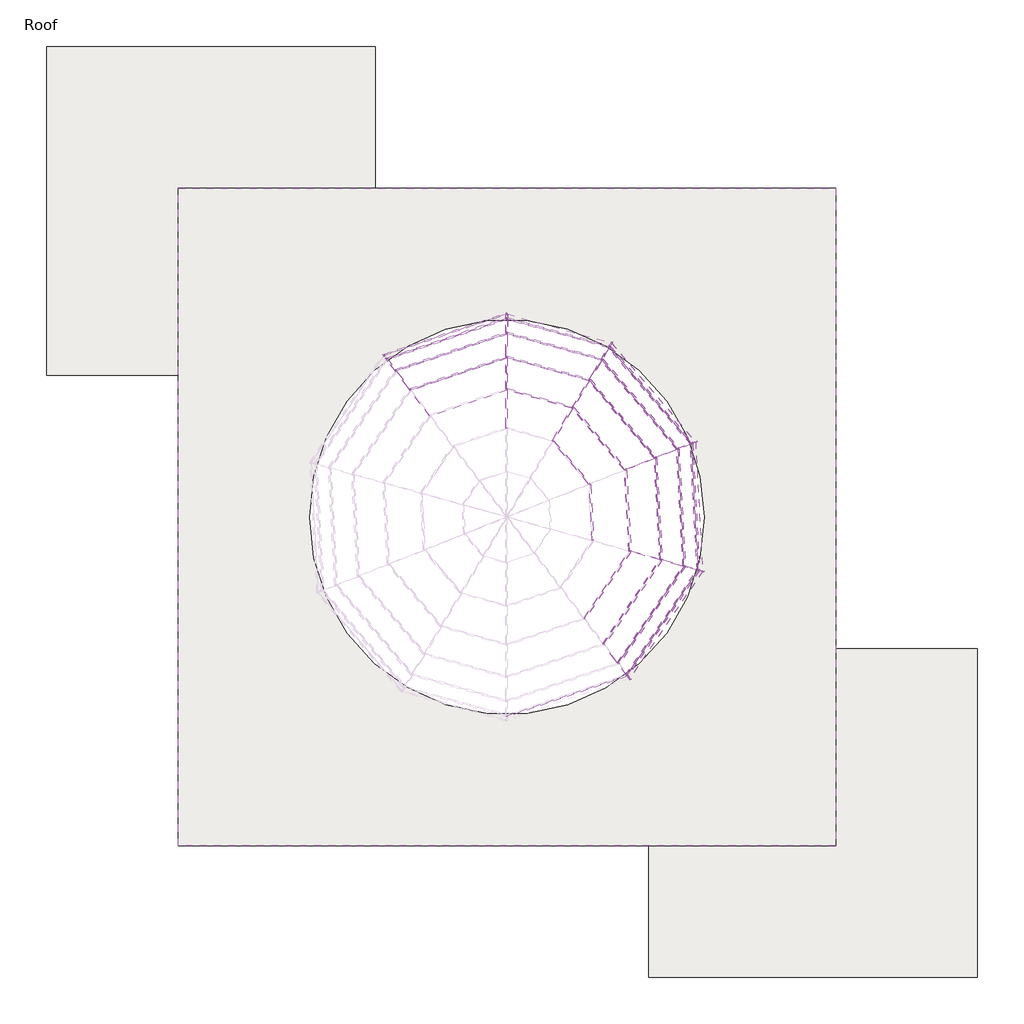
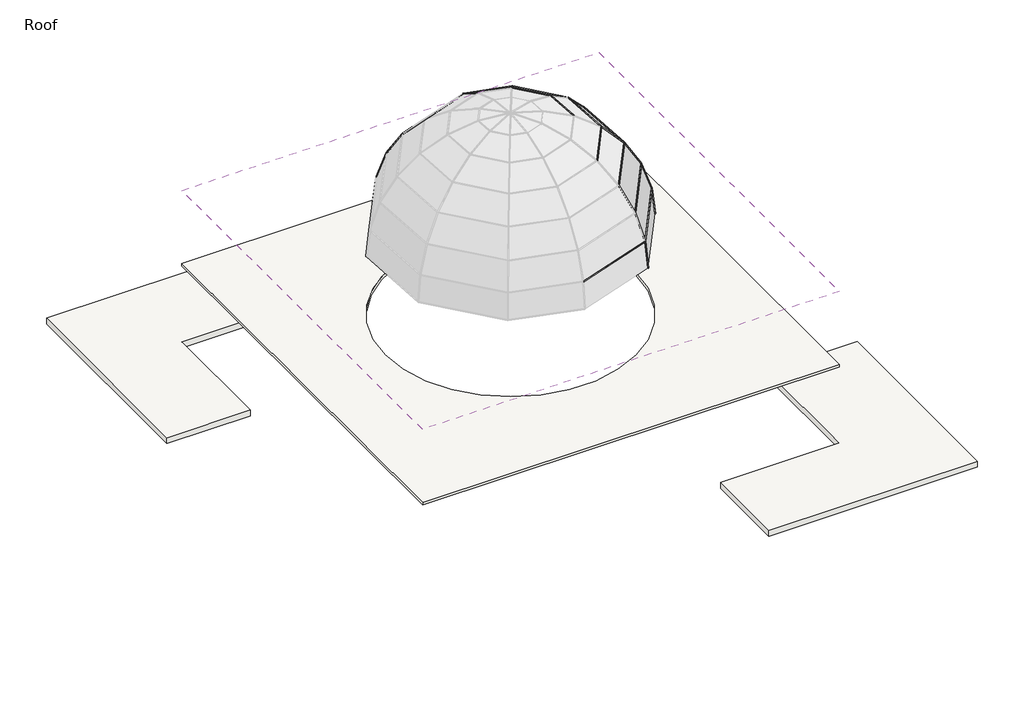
# One storey, part 3 of 3: 45 members, 19 plates, 2 roofs, 1 slab.
"""IFC4 building model written with IfcOpenShell, lengths in millimetres."""

from ifc_helpers import new_model, si_unit, point, frame, frame_2d, origin, place, context, project, spatial, polyline, circle_curve, trimmed, segment, composite_curve, outline, extrude, transform, mapped, element, save
from components import member_3f701010, member_f9a14158, member_89652987, member_f7a51896, member_e8657a5b, member_6c74bff8, member_1e27593e, member_b4df3876, member_8766197f, member_36e36e3b, member_733b6783, member_7154ae9a, member_26d44a89, member_f4d1524e, member_0322ee24, member_f8dfbb61, member_2d455e9d, member_0d674358, member_82e3ca89, member_0ef3871b, member_af50478e, member_83124ab3, system_panel_glazed_0031539c, system_panel_glazed_f3dd288a, system_panel_glazed_23af2605, system_panel_glazed_f170e29b, system_panel_glazed_4e7d729c, system_panel_glazed_2310db81, system_panel_glazed_ed1eaaca, system_panel_glazed_395523a0

model = new_model("IFC4")

# Units and contexts
model_context = context("Model", 3, world=origin())
ifc_project = project(units=[si_unit("LENGTHUNIT", "METRE", prefix="MILLI")], contexts=[model_context])

# Site, building, storey
site = spatial("IfcSite", under=ifc_project)
building = spatial("IfcBuilding", under=site)
storey = spatial("IfcBuildingStorey", under=building, Name="Roof", Elevation=15240.0)

# Members
placement = place(None, origin())
member_shape = member_3f701010(model_context)
element("IfcMember", 1, ObjectType="Rectangular Mullion : 1\" Square", at=placement, inside=storey, context=model_context, shape_type="MappedRepresentation", body=[
    mapped(member_shape, transform((-5287.0310513, 794.00966, 20297.5362419), x_axis=(-0.7960457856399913, -0.6052364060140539, 0.0), y_axis=(0.5733190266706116, -0.7540659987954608, -0.3204524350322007), z_axis=(0.1939494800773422, -0.25509481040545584, 0.9472646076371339))),
])
element("IfcMember", 2, ObjectType="Rectangular Mullion : 1\" Square", at=placement, inside=storey, context=model_context, shape_type="MappedRepresentation", body=[
    mapped(member_shape, transform((1420.8276165, -3752.8840541, 20297.5362419), x_axis=(0.26737778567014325, 0.9635917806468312, 0.0), y_axis=(-0.9127763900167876, 0.25327751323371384, -0.32045243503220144), z_axis=(-0.30878533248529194, 0.08568186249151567, 0.9472646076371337))),
])
element("IfcMember", 3, ObjectType="Rectangular Mullion : 1\" Square", at=placement, inside=storey, context=model_context, shape_type="MappedRepresentation", body=[
    mapped(member_shape, transform((1272.4525404, -1026.1181505, 20297.5362419), x_axis=(-0.3703558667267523, 0.9288899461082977, 0.0), y_axis=(-0.879904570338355, -0.3508250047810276, -0.320452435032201), z_axis=(-0.2976650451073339, -0.11868143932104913, 0.9472646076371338))),
])
element("IfcMember", 4, ObjectType="Rectangular Mullion : 1\" Square", at=placement, inside=storey, context=model_context, shape_type="MappedRepresentation", body=[
    mapped(member_shape, transform((-495.9988091, 1054.7103577, 20297.5362419), x_axis=(-0.8570182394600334, 0.5152860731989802, 0.0), y_axis=(-0.48811225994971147, -0.8118230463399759, -0.32045243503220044), z_axis=(-0.165124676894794, -0.27463358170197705, 0.9472646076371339))),
])
member_2_shape = member_f9a14158(model_context)
element("IfcMember", 5, ObjectType="Rectangular Mullion : 1\" Square", at=placement, inside=storey, context=model_context, shape_type="MappedRepresentation", body=[
    mapped(member_2_shape, transform((-4948.1766995, 348.3266574, 21205.6147789), x_axis=(-0.7960457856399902, -0.6052364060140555, 0.0), y_axis=(0.5151876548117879, -0.6776078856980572, -0.5248135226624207), z_axis=(0.31763625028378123, -0.4177755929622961, 0.8512172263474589))),
])
element("IfcMember", 6, ObjectType="Rectangular Mullion : 1\" Square", at=placement, inside=storey, context=model_context, shape_type="MappedRepresentation", body=[
    mapped(member_2_shape, transform((159.2860069, -3402.8310452, 21964.9283585), x_axis=(0.26737778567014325, 0.9635917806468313, 0.0), y_axis=(-0.6858533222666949, 0.19031082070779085, -0.7024151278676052), z_axis=(-0.6768414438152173, 0.18781020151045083, 0.7117675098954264))),
])
element("IfcMember", 7, ObjectType="Rectangular Mullion : 1\" Square", at=placement, inside=storey, context=model_context, shape_type="MappedRepresentation", body=[
    mapped(member_2_shape, transform((881.3404592, -3603.1869682, 21205.6147789), x_axis=(0.2673777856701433, 0.9635917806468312, 0.0), y_axis=(-0.8202259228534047, 0.22759657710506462, -0.5248135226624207), z_axis=(-0.505705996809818, 0.14032347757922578, 0.8512172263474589))),
])
element("IfcMember", 8, ObjectType="Rectangular Mullion : 1\" Square", at=placement, inside=storey, context=model_context, shape_type="MappedRepresentation", body=[
    mapped(member_2_shape, transform((56.3428337, -1510.9908379, 21964.9283585), x_axis=(-0.3703558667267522, 0.9288899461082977, 0.0), y_axis=(-0.6611536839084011, -0.26360727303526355, -0.7024151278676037), z_axis=(-0.6524663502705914, -0.2601435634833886, 0.7117675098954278))),
])
element("IfcMember", 9, ObjectType="Rectangular Mullion : 1\" Square", at=placement, inside=storey, context=model_context, shape_type="MappedRepresentation", body=[
    mapped(member_2_shape, transform((752.3939361, -1233.4696844, 21205.6147789), x_axis=(-0.37035586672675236, 0.9288899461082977, 0.0), y_axis=(-0.7906871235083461, -0.31525329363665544, -0.52481352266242), z_axis=(-0.4874940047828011, -0.1943677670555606, 0.8512172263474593))),
])
element("IfcMember", 10, ObjectType="Rectangular Mullion : 1\" Square", at=placement, inside=storey, context=model_context, shape_type="MappedRepresentation", body=[
    mapped(member_2_shape, transform((-1170.6152134, -67.3043699, 21964.9283585), x_axis=(-0.8570182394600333, 0.5152860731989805, 0.0), y_axis=(-0.36676388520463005, -0.6099977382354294, -0.7024151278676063), z_axis=(-0.36194473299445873, -0.60198257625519, 0.7117675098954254))),
])
element("IfcMember", 11, ObjectType="Rectangular Mullion : 1\" Square", at=placement, inside=storey, context=model_context, shape_type="MappedRepresentation", body=[
    mapped(member_2_shape, transform((-784.4925722, 574.8906424, 21205.6147789), x_axis=(-0.8570182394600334, 0.5152860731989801, 0.0), y_axis=(-0.43862038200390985, -0.7295086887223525, -0.5248135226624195), z_axis=(-0.2704290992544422, -0.4497747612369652, 0.8512172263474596))),
])
element("IfcMember", 12, ObjectType="Rectangular Mullion : 1\" Square", at=placement, inside=storey, context=model_context, shape_type="MappedRepresentation", body=[
    mapped(member_2_shape, transform((-1634.6788976, -839.1300846, 22536.7606794), x_axis=(-0.8570182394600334, 0.5152860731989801, 0.0), y_axis=(-0.2762066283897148, -0.45938388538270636, -0.8442016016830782), z_axis=(-0.4350053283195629, -0.723496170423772, 0.5360257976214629))),
])
member_3_shape = member_89652987(model_context)
element("IfcMember", 13, ObjectType="Rectangular Mullion : 1\" Square", at=placement, inside=storey, context=model_context, shape_type="MappedRepresentation", body=[
    mapped(member_3_shape, transform((-2699.2140381, 2007.9179508, 19286.9943584), x_axis=(0.9526418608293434, 0.28805798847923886, 0.09744783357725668), y_axis=(0.30409453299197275, -0.902403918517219, -0.30527640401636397), z_axis=(0.0, 0.3204524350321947, -0.9472646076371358))),
])
member_4_shape = member_f7a51896(model_context)
element("IfcMember", 14, ObjectType="Rectangular Mullion : 1\" Square", at=placement, inside=storey, context=model_context, shape_type="MappedRepresentation", body=[
    mapped(member_4_shape, transform((-2699.2140381, 1666.0592931, 20297.5362419), x_axis=(0.9612361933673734, 0.2347029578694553, 0.1447048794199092), y_axis=(0.2757262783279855, -0.8182208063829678, -0.5044697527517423), z_axis=(0.0, 0.5248135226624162, -0.8512172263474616))),
])
member_5_shape = member_e8657a5b(model_context)
element("IfcMember", 15, ObjectType="Rectangular Mullion : 1\" Square", at=placement, inside=storey, context=model_context, shape_type="MappedRepresentation", body=[
    mapped(member_5_shape, transform((-2699.2140381, 1106.1882271, 21205.6147789), x_axis=(0.9724196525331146, 0.1660113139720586, 0.16382998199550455), y_axis=(0.23323811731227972, -0.6921367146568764, -0.683042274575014), z_axis=(0.0, 0.7024151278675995, -0.7117675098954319))),
])
member_6_shape = member_6c74bff8(model_context)
element("IfcMember", 16, ObjectType="Rectangular Mullion : 1\" Square", at=placement, inside=storey, context=model_context, shape_type="MappedRepresentation", body=[
    mapped(member_6_shape, transform((-2699.2140381, 356.8517687, 21964.9283585), x_axis=(0.9840748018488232, 0.0952811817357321, 0.15006092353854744), y_axis=(0.17775484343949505, -0.5274894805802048, -0.8307575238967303), z_axis=(0.0, 0.8442016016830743, -0.5360257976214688))),
])
member_7_shape = member_1e27593e(model_context)
element("IfcMember", 17, ObjectType="Rectangular Mullion : 1\" Square", at=placement, inside=storey, context=model_context, shape_type="MappedRepresentation", body=[
    mapped(member_7_shape, transform((-5546.5578778, 1155.2408603, 18288.0), x_axis=(-0.032195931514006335, 0.09554178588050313, -0.9949046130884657), y_axis=(0.317711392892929, -0.9428121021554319, -0.1008206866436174), z_axis=(-0.9476406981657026, -0.31933854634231, 0.0))),
])
member_8_shape = member_b4df3876(model_context)
element("IfcMember", 18, ObjectType="Rectangular Mullion : 1\" Square", at=placement, inside=storey, context=model_context, shape_type="MappedRepresentation", body=[
    mapped(member_8_shape, transform((1743.1139654, -3854.8019504, 19286.9943584), x_axis=(0.1842360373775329, -0.12488362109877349, -0.9749159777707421), y_axis=(-0.8069913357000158, 0.5470156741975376, -0.22257321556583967), z_axis=(0.5610900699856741, 0.8277547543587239, 0.0))),
])
element("IfcMember", 19, ObjectType="Rectangular Mullion : 1\" Square", at=placement, inside=storey, context=model_context, shape_type="MappedRepresentation", body=[
    mapped(member_8_shape, transform((1590.6916514, -912.1900308, 19286.9943584), x_axis=(0.2222444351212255, 0.012093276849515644, -0.9749159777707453), y_axis=(-0.9734758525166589, -0.05297101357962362, -0.222573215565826), z_axis=(-0.05433392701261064, 0.99852282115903, 0.0))),
])
element("IfcMember", 20, ObjectType="Rectangular Mullion : 1\" Square", at=placement, inside=storey, context=model_context, shape_type="MappedRepresentation", body=[
    mapped(member_8_shape, transform((-311.6193517, 1338.012253, 19286.9943584), x_axis=(0.16959745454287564, 0.14413722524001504, -0.9749159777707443), y_axis=(-0.742871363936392, -0.631350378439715, -0.2225732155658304), z_axis=(-0.6475946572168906, 0.7619850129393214, 0.0))),
])
member_9_shape = member_8766197f(model_context)
element("IfcMember", 21, ObjectType="Rectangular Mullion : 1\" Square", at=placement, inside=storey, context=model_context, shape_type="MappedRepresentation", body=[
    mapped(member_9_shape, transform((-5274.9960144, 798.0652595, 20297.5362419), x_axis=(-0.14188636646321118, 0.42104937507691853, -0.8958714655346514), y_axis=(0.28608629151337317, -0.8489642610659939, -0.44431330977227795), z_axis=(-0.947640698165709, -0.31933854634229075, 0.0))),
])
member_10_shape = member_36e36e3b(model_context)
element("IfcMember", 22, ObjectType="Rectangular Mullion : 1\" Square", at=placement, inside=storey, context=model_context, shape_type="MappedRepresentation", body=[
    mapped(member_10_shape, transform((-776.2681201, 565.2134327, 21205.6147789), x_axis=(0.4861581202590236, 0.4131753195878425, -0.7700236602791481), y_axis=(-0.5867464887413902, -0.49866320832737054, -0.6380153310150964), z_axis=(-0.6475946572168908, 0.7619850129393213, 0.0))),
])
element("IfcMember", 23, ObjectType="Rectangular Mullion : 1\" Square", at=placement, inside=storey, context=model_context, shape_type="MappedRepresentation", body=[
    mapped(member_10_shape, transform((753.083977, -1246.1509242, 21205.6147789), x_axis=(0.6370728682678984, 0.03466587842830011, -0.7700236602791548), y_axis=(-0.7688861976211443, -0.04183840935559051, -0.6380153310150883), z_axis=(-0.05433392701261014, 0.99852282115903, 0.0))),
])
element("IfcMember", 24, ObjectType="Rectangular Mullion : 1\" Square", at=placement, inside=storey, context=model_context, shape_type="MappedRepresentation", body=[
    mapped(member_10_shape, transform((874.2146153, -3613.6994536, 21205.6147789), x_axis=(0.5281202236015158, -0.35798406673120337, -0.7700236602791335), y_axis=(-0.6373907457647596, 0.43205262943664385, -0.6380153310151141), z_axis=(0.561090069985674, 0.8277547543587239, 0.0))),
])
member_11_shape = member_733b6783(model_context)
element("IfcMember", 25, ObjectType="Rectangular Mullion : 1\" Square", at=placement, inside=storey, context=model_context, shape_type="MappedRepresentation", body=[
    mapped(member_11_shape, transform((-487.774357, 1045.033148, 20297.5362419), x_axis=(0.33856008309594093, 0.2877349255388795, -0.8958714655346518), y_axis=(-0.6826406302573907, -0.5801615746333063, -0.4443133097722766), z_axis=(-0.6475946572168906, 0.7619850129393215, 0.0))),
])
element("IfcMember", 26, ObjectType="Rectangular Mullion : 1\" Square", at=placement, inside=storey, context=model_context, shape_type="MappedRepresentation", body=[
    mapped(member_11_shape, transform((1413.7017727, -3763.3965395, 20297.5362419), x_axis=(0.3677824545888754, -0.24929978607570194, -0.895871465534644), y_axis=(-0.7415618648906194, 0.502664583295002, -0.4443133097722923), z_axis=(0.5610900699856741, 0.8277547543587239, 0.0))),
])
element("IfcMember", 27, ObjectType="Rectangular Mullion : 1\" Square", at=placement, inside=storey, context=model_context, shape_type="MappedRepresentation", body=[
    mapped(member_11_shape, transform((1273.1425813, -1038.7993903, 20297.5362419), x_axis=(0.4436569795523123, 0.02414128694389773, -0.8958714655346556), y_axis=(-0.8945481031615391, -0.048676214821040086, -0.44431330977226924), z_axis=(-0.05433392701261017, 0.99852282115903, 0.0))),
])
member_12_shape = member_7154ae9a(model_context)
element("IfcMember", 28, ObjectType="Rectangular Mullion : 1\" Square", at=placement, inside=storey, context=model_context, shape_type="MappedRepresentation", body=[
    mapped(member_12_shape, transform((-5481.9013197, 1070.2004033, 19286.9943584), x_axis=(-0.07107620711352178, 0.21091943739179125, -0.974915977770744), y_axis=(0.311328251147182, -0.923870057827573, -0.2225732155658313), z_axis=(-0.9476406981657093, -0.31933854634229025, 0.0))),
])
member_13_shape = member_26d44a89(model_context)
element("IfcMember", 29, ObjectType="Rectangular Mullion : 1\" Square", at=placement, inside=storey, context=model_context, shape_type="MappedRepresentation", body=[
    mapped(member_13_shape, transform((57.0328745, -1523.6720777, 21964.9283585), x_axis=(0.7932455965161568, 0.04316390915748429, -0.6073699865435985), y_axis=(-0.6064727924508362, -0.033000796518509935, -0.7944190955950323), z_axis=(-0.05433392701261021, 0.99852282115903, 0.0))),
])
element("IfcMember", 30, ObjectType="Rectangular Mullion : 1\" Square", at=placement, inside=storey, context=model_context, shape_type="MappedRepresentation", body=[
    mapped(member_13_shape, transform((152.160163, -3413.3435306, 21964.9283585), x_axis=(0.6575841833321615, -0.4457406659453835, -0.6073699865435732), y_axis=(-0.5027533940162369, 0.3407892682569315, -0.7944190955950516), z_axis=(0.5610900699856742, 0.8277547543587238, 0.0))),
])
element("IfcMember", 31, ObjectType="Rectangular Mullion : 1\" Square", at=placement, inside=storey, context=model_context, shape_type="MappedRepresentation", body=[
    mapped(member_13_shape, transform((-1162.3907612, -76.9815796, 21964.9283585), x_axis=(0.6053354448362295, 0.5144615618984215, -0.6073699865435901), y_axis=(-0.46280682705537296, -0.39332955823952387, -0.7944190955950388), z_axis=(-0.6475946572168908, 0.7619850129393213, 0.0))),
])
member_14_shape = member_f4d1524e(model_context)
element("IfcMember", 32, ObjectType="Rectangular Mullion : 1\" Square", at=placement, inside=storey, context=model_context, shape_type="MappedRepresentation", body=[
    mapped(member_14_shape, transform((-4936.1416626, 352.3822569, 21205.6147789), x_axis=(-0.20374288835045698, 0.6046092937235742, -0.7700236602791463), y_axis=(0.24589823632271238, -0.7297057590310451, -0.6380153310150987), z_axis=(-0.9476406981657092, -0.3193385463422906, 0.0))),
])
member_15_shape = member_0322ee24(model_context)
element("IfcMember", 33, ObjectType="Rectangular Mullion : 1\" Square", at=placement, inside=storey, context=model_context, shape_type="MappedRepresentation", body=[
    mapped(member_15_shape, transform((-5493.9363566, 1066.1448037, 19286.9943584), x_axis=(-0.7960457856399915, -0.6052364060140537, 0.0), y_axis=(0.6018052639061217, -0.7915329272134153, -0.1063299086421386), z_axis=(0.0643547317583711, -0.08464347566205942, 0.9943309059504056))),
])
member_16_shape = member_f8dfbb61(model_context)
element("IfcMember", 34, ObjectType="Rectangular Mullion : 1\" Square", at=placement, inside=storey, context=model_context, shape_type="MappedRepresentation", body=[
    mapped(member_16_shape, transform((-779.5200872, -1857.2124487, 22536.7606794), x_axis=(0.906879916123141, 0.04934724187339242, -0.4184897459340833), y_axis=(-0.4178715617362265, -0.022738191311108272, -0.9082215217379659), z_axis=(-0.05433392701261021, 0.99852282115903, 0.0))),
])
element("IfcMember", 35, ObjectType="Rectangular Mullion : 1\" Square", at=placement, inside=storey, context=model_context, shape_type="MappedRepresentation", body=[
    mapped(member_16_shape, transform((-1626.4544455, -848.8072942, 22536.7606794), x_axis=(0.6920511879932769, 0.5881594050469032, -0.41848974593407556), y_axis=(-0.3188829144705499, -0.2710117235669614, -0.9082215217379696), z_axis=(-0.6475946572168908, 0.7619850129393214, 0.0))),
])
member_17_shape = member_2d455e9d(model_context)
element("IfcMember", 36, ObjectType="Rectangular Mullion : 1\" Square", at=placement, inside=storey, context=model_context, shape_type="MappedRepresentation", body=[
    mapped(member_17_shape, transform((-2699.2140381, 2114.7465511, 18288.0), x_axis=(0.9481874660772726, 0.3159102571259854, 0.03378222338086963), y_axis=(0.31771139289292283, -0.9428121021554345, -0.10082068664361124), z_axis=(0.0, 0.1063299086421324, -0.9943309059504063))),
])
member_18_shape = member_0d674358(model_context)
element("IfcMember", 37, ObjectType="Rectangular Mullion : 1\" Square", at=placement, inside=storey, context=model_context, shape_type="MappedRepresentation", body=[
    mapped(member_18_shape, transform((-2699.2140381, 356.8517687, 21964.9283585), x_axis=(0.21109233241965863, 0.7607469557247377, -0.613762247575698), y_axis=(-0.1641063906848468, -0.5914162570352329, -0.7894909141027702), z_axis=(-0.9635917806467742, 0.2673777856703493, 0.0))),
])
member_19_shape = member_82e3ca89(model_context)
element("IfcMember", 38, ObjectType="Rectangular Mullion : 1\" Square", at=placement, inside=storey, context=model_context, shape_type="MappedRepresentation", body=[
    mapped(member_19_shape, transform((-2699.2140381, 1106.1882271, 21205.6147789), x_axis=(0.16889969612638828, 0.6086906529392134, -0.775221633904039), y_axis=(-0.20727704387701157, -0.7469971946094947, -0.6316893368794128), z_axis=(-0.9635917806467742, 0.2673777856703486, 0.0))),
])
member_20_shape = member_0ef3871b(model_context)
element("IfcMember", 39, ObjectType="Rectangular Mullion : 1\" Square", at=placement, inside=storey, context=model_context, shape_type="MappedRepresentation", body=[
    mapped(member_20_shape, transform((-2699.2140381, 1666.0592931, 20297.5362419), x_axis=(0.11721342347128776, 0.422420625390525, -0.8987890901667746), y_axis=(-0.24031623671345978, -0.8660657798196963, -0.43838130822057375), z_axis=(-0.9635917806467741, 0.2673777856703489, 0.0))),
])
element("IfcMember", 40, ObjectType="Rectangular Mullion : 1\" Square", at=placement, inside=storey, context=model_context, shape_type="MappedRepresentation", body=[
    mapped(member_15_shape, transform((95.5082804, -6285.4517016, 19286.9943584), x_axis=(0.7960457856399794, 0.6052364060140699, 0.0), y_axis=(-0.6018052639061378, 0.7915329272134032, -0.10632990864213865), z_axis=(-0.06435473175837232, 0.08464347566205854, 0.9943309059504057))),
])
element("IfcMember", 41, ObjectType="Rectangular Mullion : 1\" Square", at=placement, inside=storey, context=model_context, shape_type="MappedRepresentation", body=[
    mapped(member_15_shape, transform((1750.2398092, -3844.289465, 19286.9943584), x_axis=(0.2673777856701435, 0.9635917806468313, 0.0), y_axis=(-0.9581290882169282, 0.26586199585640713, -0.10632990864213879), z_axis=(-0.10245862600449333, 0.02843025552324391, 0.9943309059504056))),
])
element("IfcMember", 42, ObjectType="Rectangular Mullion : 1\" Square", at=placement, inside=storey, context=model_context, shape_type="MappedRepresentation", body=[
    mapped(member_15_shape, transform((1590.0016106, -899.508791, 19286.9943584), x_axis=(-0.3703558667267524, 0.9288899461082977, 0.0), y_axis=(-0.923623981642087, -0.3682562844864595, -0.10632990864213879), z_axis=(-0.09876878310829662, -0.0393799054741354, 0.9943309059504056))),
])
element("IfcMember", 43, ObjectType="Rectangular Mullion : 1\" Square", at=placement, inside=storey, context=model_context, shape_type="MappedRepresentation", body=[
    mapped(member_15_shape, transform((-319.8438038, 1347.6894627, 19286.9943584), x_axis=(-0.8570182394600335, 0.51528607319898, 0.0), y_axis=(-0.5123648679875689, -0.8521597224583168, -0.10632990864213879), z_axis=(-0.05479032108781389, -0.09112667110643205, 0.9943309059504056))),
])
member_21_shape = member_af50478e(model_context)
element("IfcMember", 44, ObjectType="Rectangular Mullion : 1\" Square", at=placement, inside=storey, context=model_context, shape_type="MappedRepresentation", body=[
    mapped(member_21_shape, transform((83.4732435, -6289.5073011, 19286.9943584), x_axis=(0.07107620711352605, -0.21091943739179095, -0.9749159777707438), y_axis=(-0.31132825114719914, 0.923870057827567, -0.22257321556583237), z_axis=(0.9476406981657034, 0.31933854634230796, 0.0))),
])
member_22_shape = member_83124ab3(model_context)
element("IfcMember", 45, ObjectType="Rectangular Mullion : 1\" Square", at=placement, inside=storey, context=model_context, shape_type="MappedRepresentation", body=[
    mapped(member_22_shape, transform((-2699.2140381, 2007.9179508, 19286.9943584), x_axis=(0.058573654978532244, 0.21109118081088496, -0.9757098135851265), y_axis=(-0.26088312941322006, -0.9401859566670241, -0.21906702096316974), z_axis=(-0.963591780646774, 0.26737778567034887, 0.0))),
])

# Plates
system_panel_glazed_shape = system_panel_glazed_0031539c(model_context)
element("IfcPlate", 46, ObjectType="System Panel : Glazed", at=placement, inside=storey, context=model_context, shape_type="MappedRepresentation", body=[
    mapped(system_panel_glazed_shape, transform((107.8144203, -2456.9109416, 21964.9283585), x_axis=(-0.054333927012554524, 0.9985228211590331, 0.0), y_axis=(0.7292999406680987, 0.03968435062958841, 0.683042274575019), z_axis=(0.6820332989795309, 0.03711236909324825, -0.730378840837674))),
])
element("IfcPlate", 47, ObjectType="System Panel : Glazed", at=placement, inside=storey, context=model_context, shape_type="MappedRepresentation", body=[
    mapped(system_panel_glazed_shape, transform((-557.1361899, -789.1476039, 21964.9283585), x_axis=(-0.6475946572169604, 0.7619850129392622, 0.0), y_axis=(0.5565377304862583, 0.4729894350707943, 0.6830422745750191), z_axis=(0.520467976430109, 0.4423345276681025, -0.7303788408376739))),
])
element("IfcPlate", 48, ObjectType="System Panel : Glazed", at=placement, inside=storey, context=model_context, shape_type="MappedRepresentation", body=[
    mapped(system_panel_glazed_shape, transform((-3596.9325163, 54.3361482, 21964.9283585), x_axis=(-0.9476406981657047, -0.3193385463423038, 0.0), y_axis=(-0.23323811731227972, 0.6921367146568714, 0.6830422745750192), z_axis=(-0.2181217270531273, 0.6472786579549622, -0.7303788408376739))),
])
system_panel_glazed_2_shape = system_panel_glazed_f3dd288a(model_context)
element("IfcPlate", 49, ObjectType="System Panel : Glazed", at=placement, inside=storey, context=model_context, shape_type="MappedRepresentation", body=[
    mapped(system_panel_glazed_2_shape, transform((-1934.9146257, 144.7736994, 21964.9283585), x_axis=(-0.9635917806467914, 0.267377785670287, 0.0), y_axis=(0.19375869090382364, 0.6982789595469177, 0.6891038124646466), z_axis=(0.18425105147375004, 0.6640147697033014, -0.7246626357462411))),
])
system_panel_glazed_3_shape = system_panel_glazed_23af2605(model_context)
element("IfcPlate", 50, ObjectType="System Panel : Glazed", at=placement, inside=storey, context=model_context, shape_type="MappedRepresentation", body=[
    mapped(system_panel_glazed_3_shape, transform((215.5445412, -4585.4102617, 21205.6147789), x_axis=(0.5610900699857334, 0.8277547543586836, 0.0), y_axis=(0.7147077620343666, -0.48446164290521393, 0.5044697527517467), z_axis=(0.41757723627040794, -0.28305296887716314, -0.8634293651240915))),
])
element("IfcPlate", 51, ObjectType="System Panel : Glazed", at=placement, inside=storey, context=model_context, shape_type="MappedRepresentation", body=[
    mapped(system_panel_glazed_3_shape, transform((816.8671976, -2418.3283263, 21205.6147789), x_axis=(-0.054333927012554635, 0.9985228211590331, 0.0), y_axis=(0.8621539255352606, 0.046913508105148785, 0.5044697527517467), z_axis=(0.5037245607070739, 0.02740982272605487, -0.8634293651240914))),
])
element("IfcPlate", 52, ObjectType="System Panel : Glazed", at=placement, inside=storey, context=model_context, shape_type="MappedRepresentation", body=[
    mapped(system_panel_glazed_3_shape, transform((-16.049318, -329.289521, 21205.6147789), x_axis=(-0.6475946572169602, 0.7619850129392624, 0.0), y_axis=(0.6579202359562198, 0.5591522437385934, 0.504469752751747), z_axis=(0.38439839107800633, 0.3266919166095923, -0.8634293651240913))),
])
element("IfcPlate", 53, ObjectType="System Panel : Glazed", at=placement, inside=storey, context=model_context, shape_type="MappedRepresentation", body=[
    mapped(system_panel_glazed_3_shape, transform((-3823.6953688, 727.2574423, 21205.6147789), x_axis=(-0.9476406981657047, -0.31933854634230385, 0.0), y_axis=(-0.2757262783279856, 0.8182208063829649, 0.5044697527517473), z_axis=(-0.16109663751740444, 0.47805606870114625, -0.8634293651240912))),
])
system_panel_glazed_4_shape = system_panel_glazed_f170e29b(model_context)
element("IfcPlate", 54, ObjectType="System Panel : Glazed", at=placement, inside=storey, context=model_context, shape_type="MappedRepresentation", body=[
    mapped(system_panel_glazed_4_shape, transform((-1741.8533052, 840.5394348, 21205.6147789), x_axis=(-0.9635917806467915, 0.26737778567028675, 0.0), y_axis=(0.22987098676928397, 0.8284225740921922, 0.5107595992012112), z_axis=(0.13656577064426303, 0.49216375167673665, -0.8597235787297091))),
])
system_panel_glazed_5_shape = system_panel_glazed_4e7d729c(model_context)
element("IfcPlate", 55, ObjectType="System Panel : Glazed", at=placement, inside=storey, context=model_context, shape_type="MappedRepresentation", body=[
    mapped(system_panel_glazed_5_shape, transform((654.7152958, -4883.100306, 20297.5362419), x_axis=(0.5610900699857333, 0.8277547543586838, 0.0), y_axis=(0.7882408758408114, -0.5343057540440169, 0.30527640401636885), z_axis=(0.2526939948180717, -0.17128755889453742, -0.9522637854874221))),
])
element("IfcPlate", 56, ObjectType="System Panel : Glazed", at=placement, inside=storey, context=model_context, shape_type="MappedRepresentation", body=[
    mapped(system_panel_glazed_5_shape, transform((1346.6400785, -2389.5011023, 20297.5362419), x_axis=(-0.05433392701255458, 0.9985228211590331, 0.0), y_axis=(0.9508571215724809, 0.05174023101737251, 0.30527640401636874), z_axis=(0.3048254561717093, 0.01658686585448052, -0.952263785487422))),
])
element("IfcPlate", 57, ObjectType="System Panel : Glazed", at=placement, inside=storey, context=model_context, shape_type="MappedRepresentation", body=[
    mapped(system_panel_glazed_5_shape, transform((388.2268657, 14.2961036, 20297.5362419), x_axis=(-0.6475946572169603, 0.7619850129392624, 0.0), y_axis=(0.7256107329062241, 0.616680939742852, 0.305276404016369), z_axis=(0.23261604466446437, 0.19769536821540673, -0.9522637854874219))),
])
element("IfcPlate", 58, ObjectType="System Panel : Glazed", at=placement, inside=storey, context=model_context, shape_type="MappedRepresentation", body=[
    mapped(system_panel_glazed_5_shape, transform((-3993.1225447, 1230.0344765, 20297.5362419), x_axis=(-0.9476406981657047, -0.3193385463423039, 0.0), y_axis=(-0.3040945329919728, 0.9024039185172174, 0.3052764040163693), z_axis=(-0.09748652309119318, 0.2892923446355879, -0.9522637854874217))),
])
system_panel_glazed_6_shape = system_panel_glazed_2310db81(model_context)
element("IfcPlate", 59, ObjectType="System Panel : Glazed", at=placement, inside=storey, context=model_context, shape_type="MappedRepresentation", body=[
    mapped(system_panel_glazed_6_shape, transform((-1597.6064236, 1360.3848254, 20297.5362419), x_axis=(-0.9635917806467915, 0.2673777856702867, 0.0), y_axis=(0.2542123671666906, 0.9161454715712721, 0.309925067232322), z_axis=(0.08286707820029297, 0.2986412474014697, -0.950760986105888))),
])
system_panel_glazed_7_shape = system_panel_glazed_ed1eaaca(model_context)
element("IfcPlate", 60, ObjectType="System Panel : Glazed", at=placement, inside=storey, context=model_context, shape_type="MappedRepresentation", body=[
    mapped(system_panel_glazed_7_shape, transform((922.8740448, -5064.8705833, 19286.9943584), x_axis=(0.5610900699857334, 0.8277547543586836, 0.0), y_axis=(0.8235370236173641, -0.5582310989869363, 0.10082068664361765), z_axis=(0.08345480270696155, -0.056569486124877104, -0.9949046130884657))),
])
element("IfcPlate", 61, ObjectType="System Panel : Glazed", at=placement, inside=storey, context=model_context, shape_type="MappedRepresentation", body=[
    mapped(system_panel_glazed_7_shape, transform((1670.1207099, -2371.899128, 19286.9943584), x_axis=(-0.05433392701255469, 0.9985228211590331, 0.0), y_axis=(0.993434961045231, 0.05405707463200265, 0.10082068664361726), z_axis=(0.10067175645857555, 0.005477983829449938, -0.9949046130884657))),
])
element("IfcPlate", 62, ObjectType="System Panel : Glazed", at=placement, inside=storey, context=model_context, shape_type="MappedRepresentation", body=[
    mapped(system_panel_glazed_7_shape, transform((635.0789034, 224.0903358, 19286.9943584), x_axis=(-0.6475946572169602, 0.7619850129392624, 0.0), y_axis=(0.7581024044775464, 0.6442949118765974, 0.10082068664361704), z_axis=(0.07682385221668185, 0.06529093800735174, -0.9949046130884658))),
])
element("IfcPlate", 63, ObjectType="System Panel : Glazed", at=placement, inside=storey, context=model_context, shape_type="MappedRepresentation", body=[
    mapped(system_panel_glazed_7_shape, transform((-4096.5751974, 1537.0313773, 19286.9943584), x_axis=(-0.9476406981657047, -0.31933854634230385, 0.0), y_axis=(-0.3177113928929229, 0.942812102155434, 0.10082068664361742), z_axis=(-0.03219593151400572, 0.09554178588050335, -0.9949046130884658))),
])
system_panel_glazed_8_shape = system_panel_glazed_395523a0(model_context)
element("IfcPlate", 64, ObjectType="System Panel : Glazed", at=placement, inside=storey, context=model_context, shape_type="MappedRepresentation", body=[
    mapped(system_panel_glazed_8_shape, transform((-1509.528921, 1677.8037067, 19286.9943584), x_axis=(-0.9635917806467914, 0.26737778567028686, 0.0), y_axis=(0.2659695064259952, 0.9585165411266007, 0.10250005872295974), z_axis=(0.02740623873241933, 0.09876821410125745, -0.9947329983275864))),
])

# Roofs
element("IfcRoof", 65, ObjectType="Generic - 9\"", at=placement, inside=storey, context=model_context, shape_type="SweptSolid", body=[
    extrude(outline(polyline([(4920.7859619, 5010.3465511), (4920.7859619, -10229.6534489), (-10319.2140381, -10229.6534489), (-10319.2140381, 5010.3465511), (4920.7859619, 5010.3465511)]), holes=[composite_curve([segment(trimmed(circle_curve(frame_2d((-2699.2140381, -2609.6534489)), 4572.0), [point((1872.7859619, -2609.6534489))], [point((-7271.2140381, -2609.6534489))], True, "CARTESIAN"), True, "CONTINUOUS"), segment(trimmed(circle_curve(frame_2d((-2699.2140381, -2609.6534489)), 4572.0), [point((-7271.2140381, -2609.6534489))], [point((1872.7859619, -2609.6534489))], True, "CARTESIAN"), True, "CONTINUOUS")], self_intersect=False)]), frame((0.0, 0.0, 18059.4), z_axis=(0.0, 0.0, 1.0), x_axis=(1.0, 0.0, 0.0)), (0.0, 0.0, 1.0), 228.6),
])
element("IfcRoof", 66, ObjectType="Generic - 9\"", at=placement, inside=storey, context=model_context, shape_type="SweptSolid", body=[
    extrude(outline(polyline([(-10319.2140381, 672.984638), (-13367.2140381, 672.984638), (-13367.2140381, 8292.984638), (-5747.2140381, 8292.984638), (-5747.2140381, 5244.984638), (-5747.2140381, 5010.3465511), (-10319.2140381, 5010.3465511), (-10319.2140381, 672.984638)])), frame((0.0, 0.0, 11963.4), z_axis=(0.0, 0.0, 1.0), x_axis=(1.0, 0.0, 0.0)), (0.0, 0.0, 1.0), 228.6),
    extrude(outline(polyline([(583.4240488, -10229.6534489), (4920.7859619, -10229.6534489), (4920.7859619, -5657.6534489), (5155.4240488, -5657.6534489), (8203.4240488, -5657.6534489), (8203.4240488, -13277.6534489), (583.4240488, -13277.6534489), (583.4240488, -10229.6534489)])), frame((0.0, 0.0, 11963.4), z_axis=(0.0, 0.0, 1.0), x_axis=(1.0, 0.0, 0.0)), (0.0, 0.0, 1.0), 228.6),
])

# Slab
element("IfcSlab", 67, ObjectType="LW Concrete on Metal Deck", at=placement, inside=storey, context=model_context, shape_type="SweptSolid", body=[
    extrude(outline(polyline([(4920.7859619, 5010.3465511), (4920.7859619, -10229.6534489), (-10319.2140381, -10229.6534489), (-10319.2140381, 5010.3465511), (4920.7859619, 5010.3465511)]), holes=[composite_curve([segment(trimmed(circle_curve(frame_2d((-2699.2140381, -2609.6534489)), 4572.0), [point((1872.7859619, -2609.6534489))], [point((-7271.2140381, -2609.6534489))], True, "CARTESIAN"), True, "CONTINUOUS"), segment(trimmed(circle_curve(frame_2d((-2699.2140381, -2609.6534489)), 4572.0), [point((-7271.2140381, -2609.6534489))], [point((1872.7859619, -2609.6534489))], True, "CARTESIAN"), True, "CONTINUOUS")], self_intersect=False)]), frame((0.0, 0.0, 15135.225), z_axis=(0.0, 0.0, 1.0), x_axis=(1.0, 0.0, 0.0)), (0.0, 0.0, 1.0), 104.775),
])

save(model, "model.ifc")
